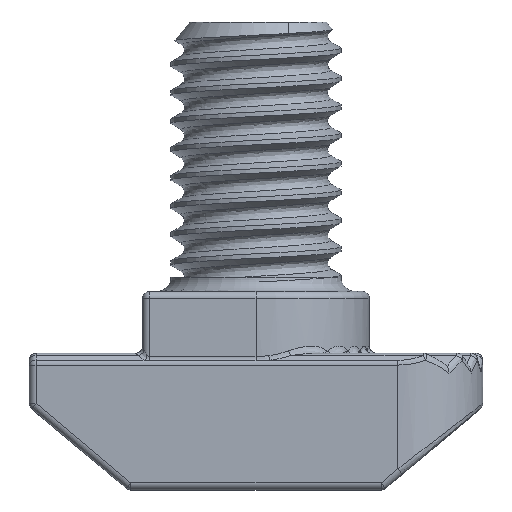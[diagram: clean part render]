
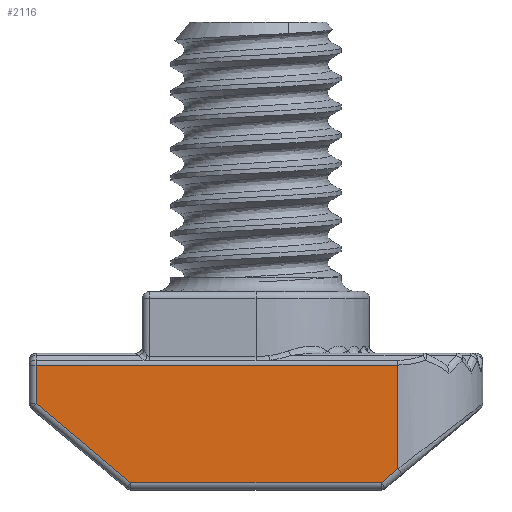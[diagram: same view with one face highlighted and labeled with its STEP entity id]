
A CAD part, front view. The second image highlights one B-rep face of the part: STEP entity #2116.
In plain terms, the highlighted planar face has unit normal (0, -1, 0).
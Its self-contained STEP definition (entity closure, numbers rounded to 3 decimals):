
#67 = VERTEX_POINT ( 'NONE', #9298 ) ;
#164 = LINE ( 'NONE', #1941, #11083 ) ;
#932 = ORIENTED_EDGE ( 'NONE', *, *, #7808, .T. ) ;
#1149 = DIRECTION ( 'NONE',  ( -1., 0., 0. ) ) ;
#1586 = EDGE_CURVE ( 'NONE', #8009, #9488, #6106, .T. ) ;
#1831 = LINE ( 'NONE', #8187, #10923 ) ;
#1917 = EDGE_CURVE ( 'NONE', #2635, #67, #8953, .T. ) ;
#1941 = CARTESIAN_POINT ( 'NONE',  ( -7., -3.353, 0.25 ) ) ;
#1977 = LINE ( 'NONE', #9478, #8508 ) ;
#2067 = CARTESIAN_POINT ( 'NONE',  ( -3.409, -3.353, 0.25 ) ) ;
#2116 = ADVANCED_FACE ( 'NONE', ( #5222 ), #3667, .F. ) ;
#2340 = CARTESIAN_POINT ( 'NONE',  ( -6.75, -3.353, 4.405 ) ) ;
#2377 = LINE ( 'NONE', #3290, #4454 ) ;
#2635 = VERTEX_POINT ( 'NONE', #6086 ) ;
#2807 = DIRECTION ( 'NONE',  ( 1., 0., 0. ) ) ;
#3290 = CARTESIAN_POINT ( 'NONE',  ( -6.75, -3.353, 4.5 ) ) ;
#3372 = CARTESIAN_POINT ( 'NONE',  ( 5.839, -3.353, 0.611 ) ) ;
#3667 = PLANE ( 'NONE',  #3940 ) ;
#3717 = VECTOR ( 'NONE', #8989, 1000. ) ;
#3940 = AXIS2_PLACEMENT_3D ( 'NONE', #5412, #9857, #4577 ) ;
#4014 = CARTESIAN_POINT ( 'NONE',  ( 6., -3.353, 4.405 ) ) ;
#4234 = ORIENTED_EDGE ( 'NONE', *, *, #4727, .T. ) ;
#4454 = VECTOR ( 'NONE', #7686, 1000. ) ;
#4577 = DIRECTION ( 'NONE',  ( 0., 0., 1. ) ) ;
#4727 = EDGE_CURVE ( 'NONE', #9488, #2635, #164, .T. ) ;
#4981 = EDGE_CURVE ( 'NONE', #7616, #8009, #2377, .T. ) ;
#5222 = FACE_OUTER_BOUND ( 'NONE', #9890, .T. ) ;
#5412 = CARTESIAN_POINT ( 'NONE',  ( -7., -3.353, 4.5 ) ) ;
#5634 = ORIENTED_EDGE ( 'NONE', *, *, #10568, .T. ) ;
#6086 = CARTESIAN_POINT ( 'NONE',  ( 5.409, -3.353, 0.25 ) ) ;
#6106 = LINE ( 'NONE', #10717, #3717 ) ;
#6564 = VERTEX_POINT ( 'NONE', #4014 ) ;
#6630 = VECTOR ( 'NONE', #9566, 1000. ) ;
#7120 = ORIENTED_EDGE ( 'NONE', *, *, #1917, .T. ) ;
#7616 = VERTEX_POINT ( 'NONE', #2340 ) ;
#7617 = CARTESIAN_POINT ( 'NONE',  ( -6.75, -3.353, 3.053 ) ) ;
#7686 = DIRECTION ( 'NONE',  ( 0., 0., -1. ) ) ;
#7808 = EDGE_CURVE ( 'NONE', #6564, #7616, #1831, .T. ) ;
#8009 = VERTEX_POINT ( 'NONE', #7617 ) ;
#8187 = CARTESIAN_POINT ( 'NONE',  ( -7., -3.353, 4.405 ) ) ;
#8508 = VECTOR ( 'NONE', #10366, 1000. ) ;
#8953 = LINE ( 'NONE', #3372, #6630 ) ;
#8989 = DIRECTION ( 'NONE',  ( 0.766, 0., -0.643 ) ) ;
#9298 = CARTESIAN_POINT ( 'NONE',  ( 6., -3.353, 0.746 ) ) ;
#9478 = CARTESIAN_POINT ( 'NONE',  ( 6., -3.353, 4.5 ) ) ;
#9488 = VERTEX_POINT ( 'NONE', #2067 ) ;
#9566 = DIRECTION ( 'NONE',  ( 0.766, 0., 0.643 ) ) ;
#9699 = ORIENTED_EDGE ( 'NONE', *, *, #4981, .T. ) ;
#9857 = DIRECTION ( 'NONE',  ( 0., 1., 0. ) ) ;
#9890 = EDGE_LOOP ( 'NONE', ( #4234, #7120, #5634, #932, #9699, #10570 ) ) ;
#10366 = DIRECTION ( 'NONE',  ( 0., 0., 1. ) ) ;
#10568 = EDGE_CURVE ( 'NONE', #67, #6564, #1977, .T. ) ;
#10570 = ORIENTED_EDGE ( 'NONE', *, *, #1586, .T. ) ;
#10717 = CARTESIAN_POINT ( 'NONE',  ( -3.339, -3.353, 0.192 ) ) ;
#10923 = VECTOR ( 'NONE', #1149, 1000. ) ;
#11083 = VECTOR ( 'NONE', #2807, 1000. ) ;
